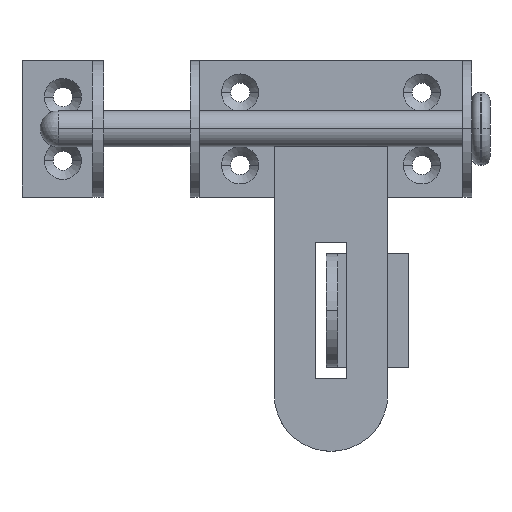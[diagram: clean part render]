
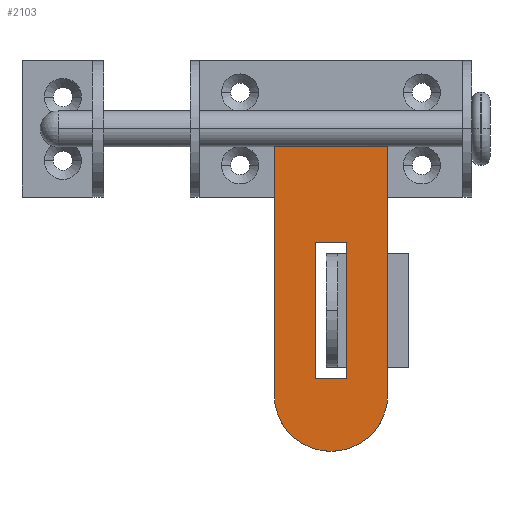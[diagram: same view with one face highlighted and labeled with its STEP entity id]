
A CAD part, top view. The second image highlights one B-rep face of the part: STEP entity #2103.
In plain terms, the highlighted planar face has unit normal (0, 0, 1).
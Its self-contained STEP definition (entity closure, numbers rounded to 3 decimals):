
#14 = VERTEX_POINT ( 'NONE', #823 ) ;
#24 = VERTEX_POINT ( 'NONE', #888 ) ;
#35 = EDGE_CURVE ( 'NONE', #24, #14, #997, .T. ) ;
#52 = ORIENTED_EDGE ( 'NONE', *, *, #35, .F. ) ;
#79 = ORIENTED_EDGE ( 'NONE', *, *, #163, .T. ) ;
#133 = EDGE_LOOP ( 'NONE', ( #2273, #79, #2949, #713 ) ) ;
#147 = EDGE_CURVE ( 'NONE', #598, #240, #1869, .T. ) ;
#163 = EDGE_CURVE ( 'NONE', #601, #598, #1971, .T. ) ;
#190 = VERTEX_POINT ( 'NONE', #2060 ) ;
#208 = EDGE_CURVE ( 'NONE', #190, #24, #2128, .T. ) ;
#240 = VERTEX_POINT ( 'NONE', #2215 ) ;
#252 = ORIENTED_EDGE ( 'NONE', *, *, #208, .F. ) ;
#370 = VERTEX_POINT ( 'NONE', #1776 ) ;
#392 = EDGE_CURVE ( 'NONE', #370, #190, #1924, .T. ) ;
#431 = ORIENTED_EDGE ( 'NONE', *, *, #392, .F. ) ;
#450 = ORIENTED_EDGE ( 'NONE', *, *, #531, .F. ) ;
#524 = EDGE_CURVE ( 'NONE', #240, #634, #1289, .T. ) ;
#531 = EDGE_CURVE ( 'NONE', #14, #370, #1365, .T. ) ;
#598 = VERTEX_POINT ( 'NONE', #1791 ) ;
#601 = VERTEX_POINT ( 'NONE', #1829 ) ;
#634 = VERTEX_POINT ( 'NONE', #2032 ) ;
#712 = EDGE_CURVE ( 'NONE', #634, #601, #2305, .T. ) ;
#713 = ORIENTED_EDGE ( 'NONE', *, *, #524, .T. ) ;
#778 = FACE_BOUND ( 'NONE', #1879, .T. ) ;
#779 = FACE_OUTER_BOUND ( 'NONE', #133, .T. ) ;
#780 = PLANE ( 'NONE',  #781 ) ;
#781 = AXIS2_PLACEMENT_3D ( 'NONE', #782, #783, #784 ) ;
#782 = CARTESIAN_POINT ( 'NONE',  ( -31., -58.5, 1. ) ) ;
#783 = DIRECTION ( 'NONE',  ( 0., 0., 1. ) ) ;
#784 = DIRECTION ( 'NONE',  ( 1., 0., 0. ) ) ;
#823 = CARTESIAN_POINT ( 'NONE',  ( -34.5, -55., 1. ) ) ;
#888 = CARTESIAN_POINT ( 'NONE',  ( -34.5, -25., 1. ) ) ;
#997 = LINE ( 'NONE', #998, #999 ) ;
#998 = CARTESIAN_POINT ( 'NONE',  ( -34.5, -25., 1. ) ) ;
#999 = VECTOR ( 'NONE', #1000, 1000. ) ;
#1000 = DIRECTION ( 'NONE',  ( 0., -1., 0. ) ) ;
#1289 = CIRCLE ( 'NONE', #1290, 12.5 ) ;
#1290 = AXIS2_PLACEMENT_3D ( 'NONE', #1291, #1292, #1293 ) ;
#1291 = CARTESIAN_POINT ( 'NONE',  ( -31., -58.5, 1. ) ) ;
#1292 = DIRECTION ( 'NONE',  ( 0., 0., 1. ) ) ;
#1293 = DIRECTION ( 'NONE',  ( 1., 0., 0. ) ) ;
#1365 = LINE ( 'NONE', #1366, #1367 ) ;
#1366 = CARTESIAN_POINT ( 'NONE',  ( -34.5, -55., 1. ) ) ;
#1367 = VECTOR ( 'NONE', #1368, 1000. ) ;
#1368 = DIRECTION ( 'NONE',  ( 1., 0., 0. ) ) ;
#1776 = CARTESIAN_POINT ( 'NONE',  ( -27.5, -55., 1. ) ) ;
#1791 = CARTESIAN_POINT ( 'NONE',  ( -43.5, -3.873, 1. ) ) ;
#1829 = CARTESIAN_POINT ( 'NONE',  ( -18.5, -3.873, 1. ) ) ;
#1869 = LINE ( 'NONE', #1870, #1871 ) ;
#1870 = CARTESIAN_POINT ( 'NONE',  ( -43.5, 0., 1. ) ) ;
#1871 = VECTOR ( 'NONE', #1872, 1000. ) ;
#1872 = DIRECTION ( 'NONE',  ( 0., -1., 0. ) ) ;
#1879 = EDGE_LOOP ( 'NONE', ( #52, #252, #431, #450 ) ) ;
#1924 = LINE ( 'NONE', #1925, #1926 ) ;
#1925 = CARTESIAN_POINT ( 'NONE',  ( -27.5, -25., 1. ) ) ;
#1926 = VECTOR ( 'NONE', #1927, 1000. ) ;
#1927 = DIRECTION ( 'NONE',  ( 0., 1., 0. ) ) ;
#1971 = LINE ( 'NONE', #1972, #1973 ) ;
#1972 = CARTESIAN_POINT ( 'NONE',  ( -95., -3.873, 1. ) ) ;
#1973 = VECTOR ( 'NONE', #1974, 1000. ) ;
#1974 = DIRECTION ( 'NONE',  ( -1., 0., 0. ) ) ;
#2032 = CARTESIAN_POINT ( 'NONE',  ( -18.5, -58.5, 1. ) ) ;
#2060 = CARTESIAN_POINT ( 'NONE',  ( -27.5, -25., 1. ) ) ;
#2103 = ADVANCED_FACE ( 'NONE', ( #778, #779 ), #780, .T. ) ;
#2128 = LINE ( 'NONE', #2129, #2130 ) ;
#2129 = CARTESIAN_POINT ( 'NONE',  ( -34.5, -25., 1. ) ) ;
#2130 = VECTOR ( 'NONE', #2131, 1000. ) ;
#2131 = DIRECTION ( 'NONE',  ( -1., 0., 0. ) ) ;
#2215 = CARTESIAN_POINT ( 'NONE',  ( -43.5, -58.5, 1. ) ) ;
#2273 = ORIENTED_EDGE ( 'NONE', *, *, #712, .T. ) ;
#2305 = LINE ( 'NONE', #2306, #2307 ) ;
#2306 = CARTESIAN_POINT ( 'NONE',  ( -18.5, 0., 1. ) ) ;
#2307 = VECTOR ( 'NONE', #2308, 1000. ) ;
#2308 = DIRECTION ( 'NONE',  ( 0., 1., 0. ) ) ;
#2949 = ORIENTED_EDGE ( 'NONE', *, *, #147, .T. ) ;
